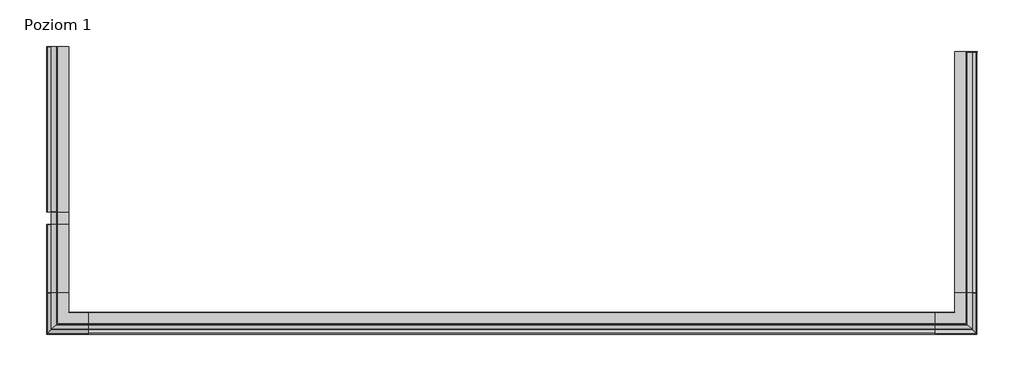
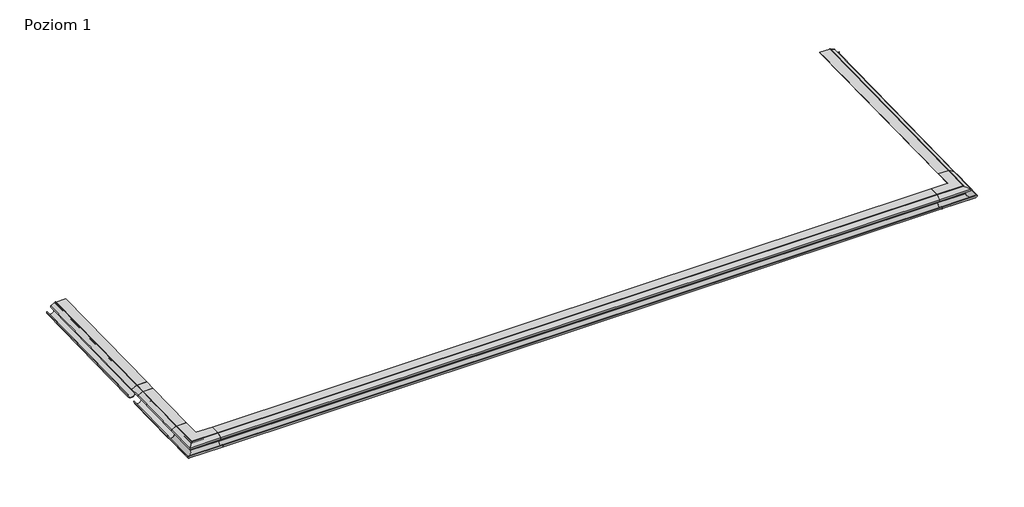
# One storey, incomplete: 11 proxies.
"""IFC4 building model written with IfcOpenShell, lengths in millimetres."""

from ifc_helpers import new_model, si_unit, origin, place, context, project, spatial, transform, mapped, element, save
from components import generic_models_8ea34007, generic_models_4e6019ff, k100r_492979a8, k100r_570090c0, k100r_94412a76, k100r_cd817782, k100r_47c554fd, rynna_alu_r50_rynna_alu_r50_e622e73a, rynna_alu_r50_rynna_alu_r50_bfb55408, rynna_alu_r50_rynna_alu_r50_f85862a3, rynna_alu_r50_rynna_alu_r50_1e9a2309

model = new_model("IFC4")

# Units and contexts
model_context = context("Model", 3, world=origin())
ifc_project = project(units=[si_unit("LENGTHUNIT", "METRE", prefix="MILLI")], contexts=[model_context])

# Site, building, storey
site = spatial("IfcSite", under=ifc_project)
building = spatial("IfcBuilding", under=site)
storey = spatial("IfcBuildingStorey", under=building, Name="Poziom 1", Elevation=0.0)

# Proxies
placement = place(None, origin())
generic_models_shape = generic_models_8ea34007(model_context)
element("IfcBuildingElementProxy", 1, Name="Odbojnik przyścienny R50 : Odbojnik przyścienny R50", ObjectType="Odbojnik przyścienny R50 : Odbojnik przyścienny R50", at=placement, inside=storey, context=model_context, shape_type="MappedRepresentation", body=[
    mapped(generic_models_shape, transform((-105598.4933202, 31572.5498824, -134.1773887), x_axis=(0.0, 0.9998020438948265, 0.01989655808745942), y_axis=(-1.0000000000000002, 0.0, 0.0), z_axis=(0.0, -0.019896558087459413, 0.9998020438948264))),
])
generic_models_2_shape = generic_models_4e6019ff(model_context)
element("IfcBuildingElementProxy", 2, Name="Odbojnik - OPK100R : Odbojnik - OPK100R", ObjectType="Odbojnik - OPK100R : Odbojnik - OPK100R", at=placement, inside=storey, context=model_context, shape_type="MappedRepresentation", body=[
    mapped(generic_models_2_shape, transform((-105611.1025607, 31568.124107, -112.821972), x_axis=(0.0, -0.9998020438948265, -0.01989655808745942), y_axis=(1.0000000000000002, 0.0, 0.0), z_axis=(0.0, -0.019896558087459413, 0.9998020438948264))),
])
k100r_shape = k100r_492979a8(model_context)
element("IfcBuildingElementProxy", 3, Name="K100R Profil okapowy prosty z rynną : K100R", ObjectType="K100R Profil okapowy prosty z rynną : K100R", at=placement, inside=storey, context=model_context, shape_type="MappedRepresentation", body=[
    mapped(k100r_shape, transform((-110659.9843298, 30072.1556932, -114.0), x_axis=(1.0, 0.0, 0.0), y_axis=(0.0, 0.9998020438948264, 0.019896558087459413), z_axis=(0.0, -0.019896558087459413, 0.9998020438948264))),
])
k100r_2_shape = k100r_570090c0(model_context)
element("IfcBuildingElementProxy", 4, Name="K100R Profil okapowy prosty z rynną : K100R", ObjectType="K100R Profil okapowy prosty z rynną : K100R", at=placement, inside=storey, context=model_context, shape_type="MappedRepresentation", body=[
    mapped(k100r_2_shape, transform((-105659.8739278, 30238.96491, -110.6804136), x_axis=(0.0, 0.9998020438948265, 0.01989655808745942), y_axis=(-1.0000000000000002, 0.0, 0.0), z_axis=(0.0, -0.019896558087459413, 0.9998020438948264))),
])
k100r_3_shape = k100r_94412a76(model_context)
element("IfcBuildingElementProxy", 5, Name="K100R Profil okapowy prosty z rynną : K100R", ObjectType="K100R Profil okapowy prosty z rynną : K100R", at=placement, inside=storey, context=model_context, shape_type="MappedRepresentation", body=[
    mapped(k100r_3_shape, transform((-110659.9843298, 30242.1220407, -110.6175851), x_axis=(0.0, 0.9998020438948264, 0.019896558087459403), y_axis=(-1.0, 0.0, 0.0), z_axis=(0.0, -0.019896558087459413, 0.9998020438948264))),
])
k100r_4_shape = k100r_cd817782(model_context)
element("IfcBuildingElementProxy", 6, Name="K100R Profil okapowy prosty z rynną : K100R", ObjectType="K100R Profil okapowy prosty z rynną : K100R", at=placement, inside=storey, context=model_context, shape_type="MappedRepresentation", body=[
    mapped(k100r_4_shape, transform((-110659.9859545, 30688.3401057, -101.7376236), x_axis=(0.0, 0.9998020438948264, 0.019896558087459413), y_axis=(-1.0, 0.0, 0.0), z_axis=(0.0, -0.019896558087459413, 0.9998020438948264))),
])
k100r_5_shape = k100r_47c554fd(model_context)
element("IfcBuildingElementProxy", 7, Name="K100R Profil okapowy prosty z rynną : K100R", ObjectType="K100R Profil okapowy prosty z rynną : K100R", at=placement, inside=storey, context=model_context, shape_type="MappedRepresentation", body=[
    mapped(k100r_5_shape, transform((-110659.9843298, 30618.3533633, -103.1002681), x_axis=(0.0, 0.9998020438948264, 0.019896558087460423), y_axis=(-1.0, 0.0, 0.0), z_axis=(0.0, -0.019896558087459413, 0.9998020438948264))),
])
rynna_alu_r50_rynna_alu_r50_shape = rynna_alu_r50_rynna_alu_r50_e622e73a(model_context)
element("IfcBuildingElementProxy", 8, Name="Rynna ALU R50 : Rynna ALU R50", ObjectType="Rynna ALU R50 : Rynna ALU R50", at=placement, inside=storey, context=model_context, shape_type="MappedRepresentation", body=[
    mapped(rynna_alu_r50_rynna_alu_r50_shape, transform((-108159.9843298, 30066.4864599, -120.5200889), x_axis=(1.0, 0.0, 0.0), y_axis=(0.0, 0.9998020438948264, 0.019896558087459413), z_axis=(0.0, -0.019896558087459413, 0.9998020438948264))),
])
rynna_alu_r50_rynna_alu_r50_2_shape = rynna_alu_r50_rynna_alu_r50_bfb55408(model_context)
element("IfcBuildingElementProxy", 9, Name="Rynna ALU R50 : Rynna ALU R50", ObjectType="Rynna ALU R50 : Rynna ALU R50", at=placement, inside=storey, context=model_context, shape_type="MappedRepresentation", body=[
    mapped(rynna_alu_r50_rynna_alu_r50_2_shape, transform((-105654.0760894, 30904.787299, -103.8374852), x_axis=(0.0, 0.9998020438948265, 0.01989655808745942), y_axis=(-1.0000000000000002, 0.0, 0.0), z_axis=(0.0, -0.019896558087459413, 0.9998020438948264))),
])
rynna_alu_r50_rynna_alu_r50_3_shape = rynna_alu_r50_rynna_alu_r50_f85862a3(model_context)
element("IfcBuildingElementProxy", 10, Name="Rynna ALU R50 : Rynna ALU R50", ObjectType="Rynna ALU R50 : Rynna ALU R50", at=placement, inside=storey, context=model_context, shape_type="MappedRepresentation", body=[
    mapped(rynna_alu_r50_rynna_alu_r50_3_shape, transform((-110665.7821682, 30430.365459, -113.2787158), x_axis=(0.0, 0.9998020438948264, 0.019896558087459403), y_axis=(-1.0, 0.0, 0.0), z_axis=(0.0, -0.019896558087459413, 0.9998020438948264))),
])
rynna_alu_r50_rynna_alu_r50_4_shape = rynna_alu_r50_rynna_alu_r50_1e9a2309(model_context)
element("IfcBuildingElementProxy", 11, Name="Rynna ALU R50 : Rynna ALU R50", ObjectType="Rynna ALU R50 : Rynna ALU R50", at=placement, inside=storey, context=model_context, shape_type="MappedRepresentation", body=[
    mapped(rynna_alu_r50_rynna_alu_r50_4_shape, transform((-110665.783793, 31143.377493, -99.0894216), x_axis=(0.0, 0.9998020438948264, 0.019896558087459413), y_axis=(-1.0, 0.0, 0.0), z_axis=(0.0, -0.019896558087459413, 0.9998020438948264))),
])

save(model, "model.ifc")
